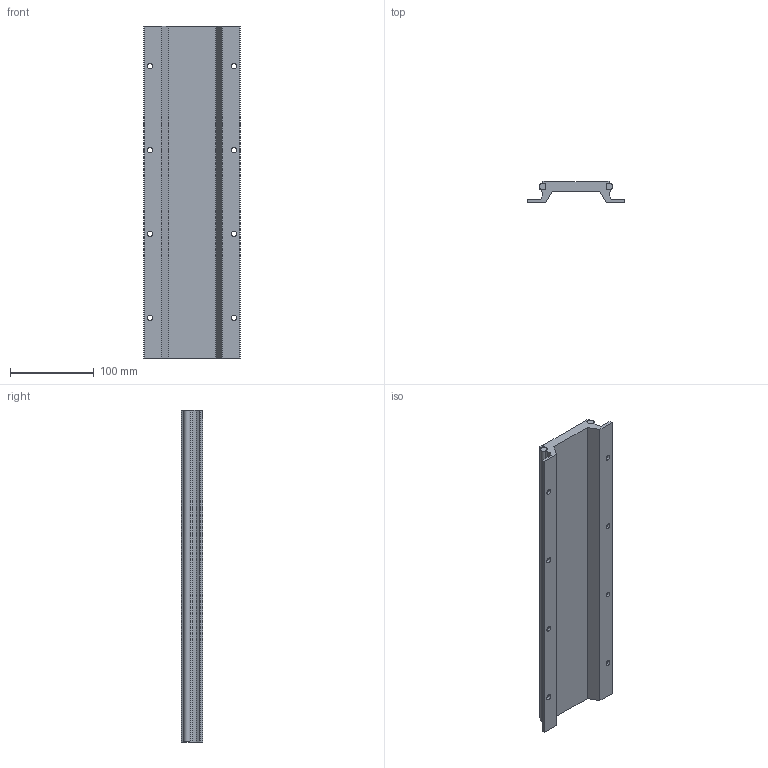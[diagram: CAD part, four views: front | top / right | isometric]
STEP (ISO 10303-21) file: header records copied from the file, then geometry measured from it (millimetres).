
FILE_DESCRIPTION (( 'STEP AP203' ), '1' );
FILE_NAME ('MLF 3_-_MLF 3 396 mm lang.step', '2005-06-03T09:57:26', ( ' ' ), ( ' ' ), 'SwSTEP 2.0', 'SolidWorks 2004231', '' );
FILE_SCHEMA (( 'CONFIG_CONTROL_DESIGN' ));
Length unit declared in the file: millimetre
Products named in the file (1): MLF 3_-_MLF 3  396 mm lang
Bounding box: 115 x 25.5 x 396 mm (x, y, z)
Volume: 513999.8 mm3; surface area: 141699.9 mm2
Topology: 1 solids, 1 shells, 112 faces, 366 edges, 240 vertices
Faces by surface type: plane 76, cylinder 36
Entity records: 4127 total; most frequent: CARTESIAN_POINT 815, ORIENTED_EDGE 732, DIRECTION 648, EDGE_CURVE 366, VECTOR 246, LINE 246, VERTEX_POINT 240, AXIS2_PLACEMENT_3D 201
